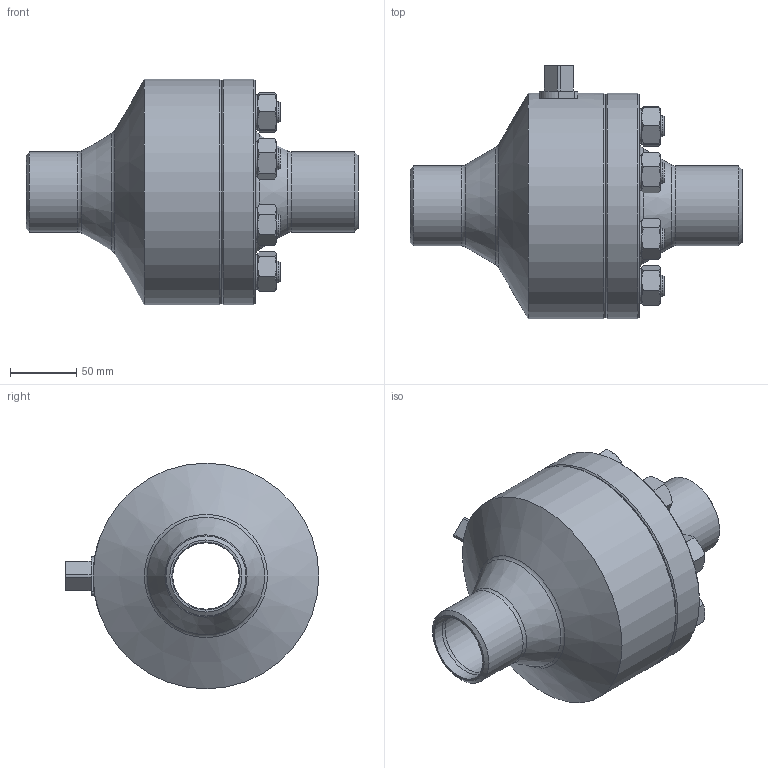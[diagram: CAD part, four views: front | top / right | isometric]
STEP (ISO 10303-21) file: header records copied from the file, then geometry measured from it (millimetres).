
FILE_DESCRIPTION((''),'2;1');
FILE_NAME('C:\Users\Bartek\Desktop\Nowy folder (2)\Nowy folder (22)\WK5b\WK5bc DN50 PN100_Substitute_1.stp','2024-09-17T08:40:51',('Bartek'),(''),'Autodesk Inventor 2012','Autodesk Inventor 2012','');
FILE_SCHEMA(('AUTOMOTIVE_DESIGN { 1 0 10303 214 1 1 1 1 }'));
Length unit declared in the file: millimetre
Products named in the file (1): WK5bc DN50 PN100_Substitute_1
Bounding box: 250 x 191 x 170 mm (x, y, z)
Volume: 2293297.9 mm3; surface area: 192579.9 mm2
Topology: 1 solids, 1 shells, 243 faces, 519 edges, 307 vertices
Faces by surface type: cone 114, plane 93, cylinder 32, torus 4
Full cylindrical faces by diameter (mm): 16 x8, 26 x8, 50 x1, 51.3 x2, 60.3 x2, 110 x1, 170 x2
Entity records: 6235 total; most frequent: CARTESIAN_POINT 1392, DIRECTION 946, ORIENTED_EDGE 930, EDGE_CURVE 465, AXIS2_PLACEMENT_3D 429, EDGE_LOOP 320, VERTEX_POINT 299, STYLED_ITEM 244
